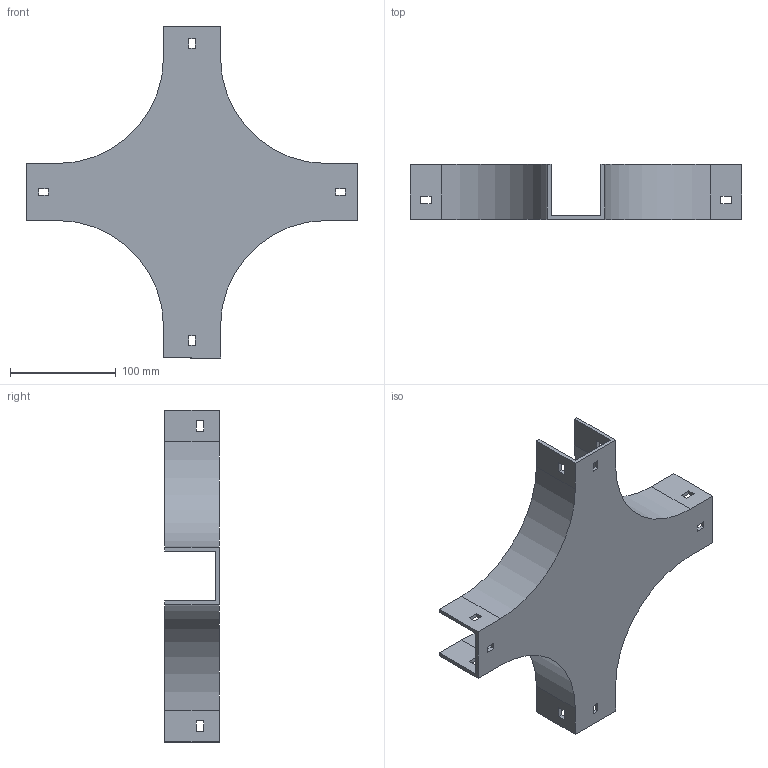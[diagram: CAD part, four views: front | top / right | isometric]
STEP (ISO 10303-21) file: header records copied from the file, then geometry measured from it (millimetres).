
FILE_DESCRIPTION (( 'STEP AP214' ), '1' );
FILE_NAME ('17F1B050.step', '2025-02-21T13:05:29', ( '' ), ( '' ), 'SwSTEP 2.0', 'SolidWorks 2023', '' );
FILE_SCHEMA (( 'AUTOMOTIVE_DESIGN' ));
Length unit declared in the file: millimetre
Products named in the file (1): 17F1B050
Bounding box: 314 x 52 x 314 mm (x, y, z)
Volume: 285014.8 mm3; surface area: 169404.7 mm2
Topology: 1 solids, 1 shells, 82 faces, 240 edges, 160 vertices
Faces by surface type: plane 74, cylinder 8
Entity records: 2751 total; most frequent: CARTESIAN_POINT 483, ORIENTED_EDGE 480, DIRECTION 422, EDGE_CURVE 240, LINE 224, VECTOR 224, VERTEX_POINT 160, EDGE_LOOP 106
